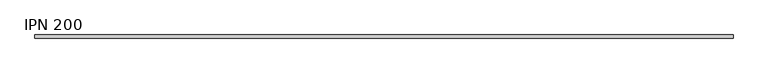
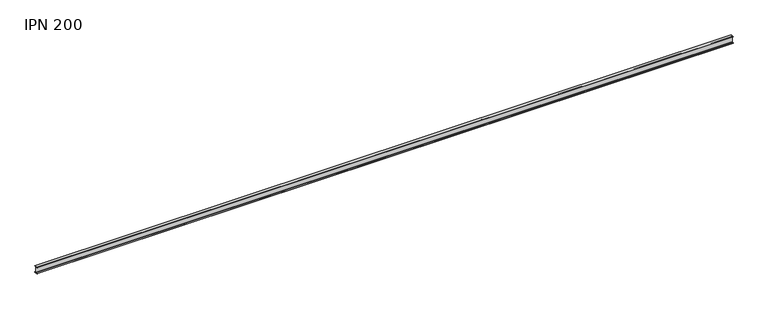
"""IFC4 building model written with IfcOpenShell, lengths in millimetres: beam geometry, IPN - Secciones en I con alas cónicas : IPN 200."""

from ifc_helpers import new_model, si_unit, point, frame, frame_2d, origin, place, context, project, spatial, polyline, circle_curve, trimmed, segment, composite_curve, outline, extrude, source, transform, mapped, element, save


def ipn_200_ee55a63d(model_context):
    return source(origin(), model_context, "Body", "SweptSolid", [
        extrude(outline(composite_curve([segment(polyline([(45.0, 100.0), (45.0, 95.763886)]), True, "CONTINUOUS"), segment(trimmed(circle_curve(frame_2d((40.5, 95.763886)), 4.5), [point((45.0, 95.763886))], [point((41.1239153, 91.3073481))], False, "CARTESIAN"), True, "CONTINUOUS"), segment(polyline([(41.1239153, 91.3073481), (10.2101412, 86.9794198)]), True, "CONTINUOUS"), segment(trimmed(circle_curve(frame_2d((11.25, 79.5518567)), 7.5), [point((10.2101412, 86.9794198))], [point((3.75, 79.5518567))], True, "CARTESIAN"), True, "CONTINUOUS"), segment(polyline([(3.75, 79.5518567), (3.75, -79.5518567)]), True, "CONTINUOUS"), segment(trimmed(circle_curve(frame_2d((11.25, -79.5518567)), 7.5), [point((3.75, -79.5518567))], [point((10.2101412, -86.9794198))], True, "CARTESIAN"), True, "CONTINUOUS"), segment(polyline([(10.2101412, -86.9794198), (41.1239153, -91.3073481)]), True, "CONTINUOUS"), segment(trimmed(circle_curve(frame_2d((40.5, -95.763886)), 4.5), [point((41.1239153, -91.3073481))], [point((45.0, -95.763886))], False, "CARTESIAN"), True, "CONTINUOUS"), segment(polyline([(45.0, -95.763886), (45.0, -100.0), (-45.0, -100.0), (-45.0, -95.763886)]), True, "CONTINUOUS"), segment(trimmed(circle_curve(frame_2d((-40.5, -95.763886)), 4.5), [point((-45.0, -95.763886))], [point((-41.1239153, -91.3073481))], False, "CARTESIAN"), True, "CONTINUOUS"), segment(polyline([(-41.1239153, -91.3073481), (-10.2101412, -86.9794198)]), True, "CONTINUOUS"), segment(trimmed(circle_curve(frame_2d((-11.25, -79.5518567)), 7.5), [point((-10.2101412, -86.9794198))], [point((-3.75, -79.5518567))], True, "CARTESIAN"), True, "CONTINUOUS"), segment(polyline([(-3.75, -79.5518567), (-3.75, 79.5518567)]), True, "CONTINUOUS"), segment(trimmed(circle_curve(frame_2d((-11.25, 79.5518567)), 7.5), [point((-3.75, 79.5518567))], [point((-10.2101412, 86.9794198))], True, "CARTESIAN"), True, "CONTINUOUS"), segment(polyline([(-10.2101412, 86.9794198), (-41.1239153, 91.3073481)]), True, "CONTINUOUS"), segment(trimmed(circle_curve(frame_2d((-40.5, 95.763886)), 4.5), [point((-41.1239153, 91.3073481))], [point((-45.0, 95.763886))], False, "CARTESIAN"), True, "CONTINUOUS"), segment(polyline([(-45.0, 95.763886), (-45.0, 100.0), (45.0, 100.0)]), True, "CONTINUOUS")], self_intersect=False)), frame((-10005.5, 0.0, 0.0), z_axis=(1.0, 0.0, 0.0), x_axis=(0.0, 1.0, 0.0)), (0.0, 0.0, 1.0), 20030.0),
    ])


if __name__ == "__main__":
    model = new_model("IFC4")
    model_context = context("Model", 3, world=origin())
    ifc_project = project(units=[si_unit("LENGTHUNIT", "METRE", prefix="MILLI")], contexts=[model_context])
    site = spatial("IfcSite", under=ifc_project)
    building = spatial("IfcBuilding", under=site)
    placement = place(None, origin())
    ipn_200_shape = ipn_200_ee55a63d(model_context)
    element("IfcBeam", 1, ObjectType="IPN - Secciones en I con alas cónicas : IPN 200", at=placement, inside=building, context=model_context, shape_type="MappedRepresentation", body=[
        mapped(ipn_200_shape, transform((0.0, 0.0, 0.0), x_axis=(1.0, 0.0, 0.0), y_axis=(0.0, 1.0, 0.0), z_axis=(0.0, 0.0, 1.0))),
    ])
    save(model, "model.ifc")
